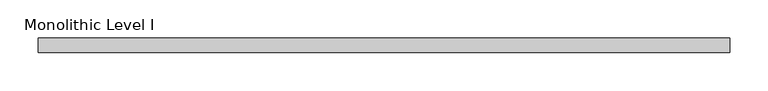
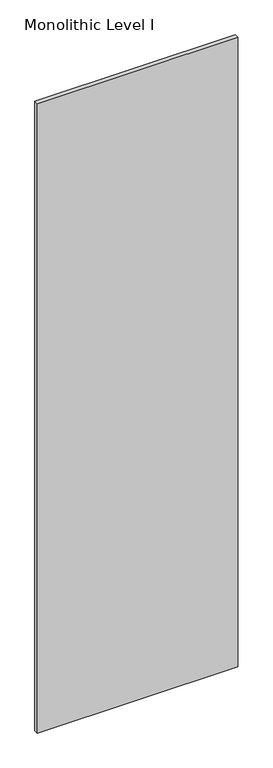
"""IFC4 building model written with IfcOpenShell, lengths in millimetres: proxy geometry, Panel-Fascia-Teknion-Altos-Standard : Monolithic Level I."""

from ifc_helpers import new_model, si_unit, frame, origin, place, context, project, spatial, polyline, outline, extrude, source, transform, mapped, element, save


def monolithic_level_i_13c59c03(model_context):
    return source(origin(), model_context, "Body", "SweptSolid", [
        extrude(outline(polyline([(454.025, 9.525), (454.025, -9.525), (-454.025, -9.525), (-454.025, 9.525), (454.025, 9.525)])), frame((0.0, 0.0, 3.175), z_axis=(0.0, 0.0, 1.0), x_axis=(1.0, 0.0, 0.0)), (0.0, 0.0, 1.0), 3016.25),
    ])


if __name__ == "__main__":
    model = new_model("IFC4")
    model_context = context("Model", 3, world=origin())
    ifc_project = project(units=[si_unit("LENGTHUNIT", "METRE", prefix="MILLI")], contexts=[model_context])
    site = spatial("IfcSite", under=ifc_project)
    building = spatial("IfcBuilding", under=site)
    placement = place(None, origin())
    monolithic_level_i_shape = monolithic_level_i_13c59c03(model_context)
    element("IfcBuildingElementProxy", 1, Name="Panel-Fascia-Teknion-Altos-Standard : Monolithic Level I", ObjectType="Panel-Fascia-Teknion-Altos-Standard : Monolithic Level I", at=placement, inside=building, context=model_context, shape_type="MappedRepresentation", body=[
        mapped(monolithic_level_i_shape, transform((0.0, 0.0, 0.0), x_axis=(1.0, 0.0, 0.0), y_axis=(0.0, 1.0, 0.0), z_axis=(0.0, 0.0, 1.0))),
    ])
    save(model, "model.ifc")
